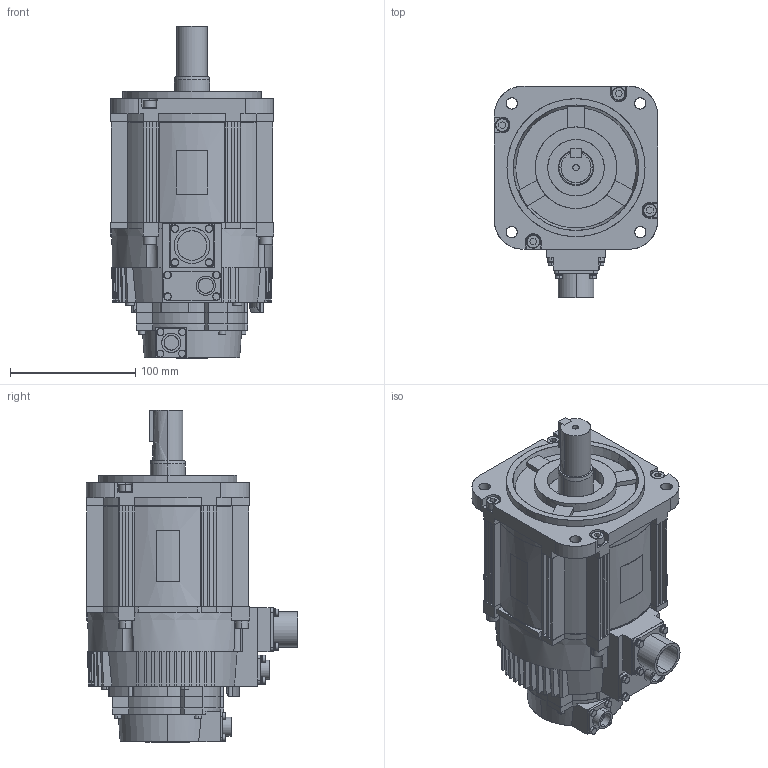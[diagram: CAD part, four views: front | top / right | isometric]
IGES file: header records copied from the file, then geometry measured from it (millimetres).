
Start section: SolidWorks IGES file using analytic representation for surfaces
Global section: file name: C:\YASKAWA\sgmgv_20__a6c.IGS; native system: SolidWorks 2006 by SolidWorks Corporation; preprocessor: SolidWorks 2006 by SolidWorks Corporation; author: yamanouchi; date: 090206.151638; units: millimetre
Bounding box: 130 x 168.49 x 264.6 mm (x, y, z)
Surface area: 181425.9 mm2 (no closed solid volume)
Topology: 0 solids, 0 shells, 942 faces, 11360 edges, 11357 vertices
Faces by surface type: bspline 589, revolution 353
